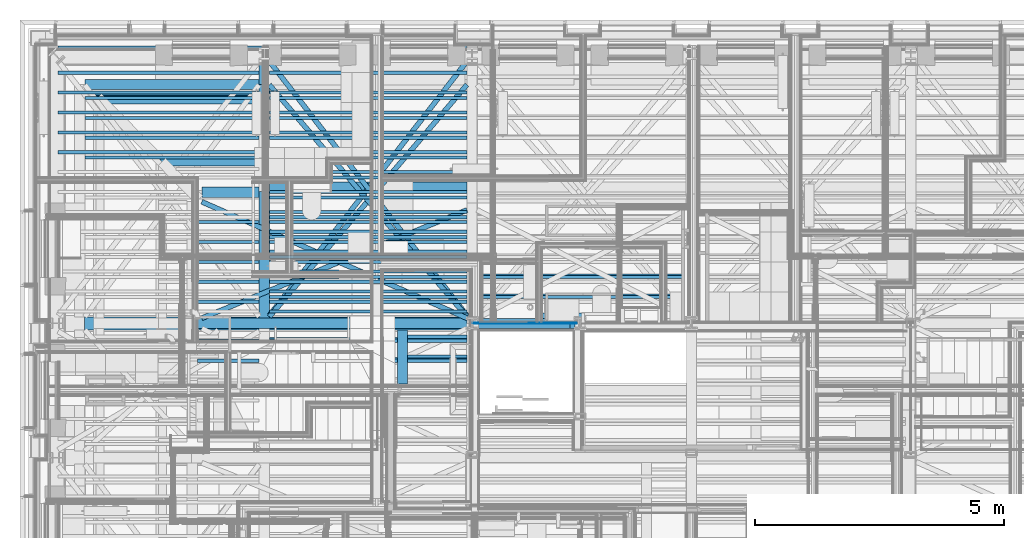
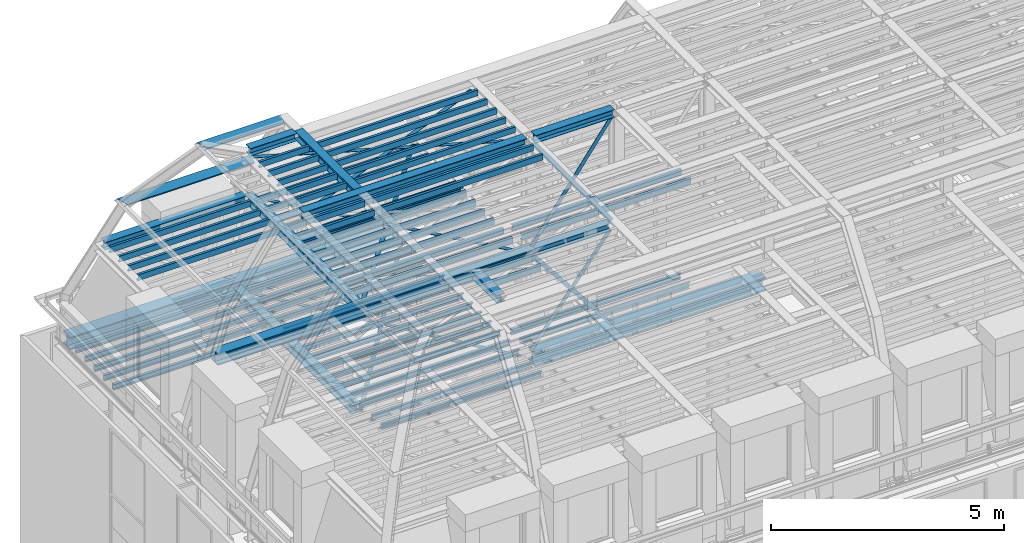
# One storey, part 7 of 183: 80 beams.
"""IFC2X3 building model written with IfcOpenShell, lengths in metres."""

from ifc_helpers import new_model, entity, si_unit, converted_unit, derived_unit, money_unit, direction, frame, frame_2d, origin_with_axes, place, context, subcontext, project, spatial, polyline, rectangle, outline, extrude, clip, halfspace, material, type_object, element, save


model = new_model("IFC2X3")

# Units and contexts
model_context = context("Model", 3, precision=1e-05, world=origin_with_axes(), true_north=direction((0.0, 1.0)))
body_context = subcontext(model_context, "Body", "Model", "MODEL_VIEW", scale=1.0)
ifc_project = project(units=[si_unit("LENGTHUNIT", "METRE"), si_unit("AREAUNIT", "SQUARE_METRE"), si_unit("VOLUMEUNIT", "CUBIC_METRE"), si_unit("ABSORBEDDOSEUNIT", "GRAY"), si_unit("AMOUNTOFSUBSTANCEUNIT", "MOLE"), si_unit("DOSEEQUIVALENTUNIT", "SIEVERT"), si_unit("ELECTRICCAPACITANCEUNIT", "FARAD"), si_unit("ELECTRICCHARGEUNIT", "COULOMB"), si_unit("ELECTRICCONDUCTANCEUNIT", "SIEMENS"), si_unit("ELECTRICCURRENTUNIT", "AMPERE"), si_unit("ELECTRICRESISTANCEUNIT", "OHM"), si_unit("ELECTRICVOLTAGEUNIT", "VOLT"), si_unit("ENERGYUNIT", "JOULE"), si_unit("FORCEUNIT", "NEWTON"), si_unit("FREQUENCYUNIT", "HERTZ"), si_unit("ILLUMINANCEUNIT", "LUX"), si_unit("INDUCTANCEUNIT", "HENRY"), si_unit("LUMINOUSFLUXUNIT", "LUMEN"), si_unit("LUMINOUSINTENSITYUNIT", "CANDELA"), si_unit("MAGNETICFLUXDENSITYUNIT", "TESLA"), si_unit("MAGNETICFLUXUNIT", "WEBER"), si_unit("MASSUNIT", "GRAM"), converted_unit("PLANEANGLEUNIT", "degree", entity("IfcReal", 0.0174532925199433), si_unit("PLANEANGLEUNIT", "RADIAN"), dimensions=[0, 0, 0, 0, 0, 0, 0]), si_unit("POWERUNIT", "WATT"), si_unit("PRESSUREUNIT", "PASCAL"), si_unit("RADIOACTIVITYUNIT", "BECQUEREL"), si_unit("SOLIDANGLEUNIT", "STERADIAN"), si_unit("THERMODYNAMICTEMPERATUREUNIT", "KELVIN"), si_unit("TIMEUNIT", "SECOND"), derived_unit("ACCELERATIONUNIT", [(si_unit("LENGTHUNIT", "METRE"), 1), (si_unit("TIMEUNIT", "SECOND"), -2)]), derived_unit("ANGULARVELOCITYUNIT", [(converted_unit("PLANEANGLEUNIT", "degree", entity("IfcReal", 0.0174532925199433), si_unit("PLANEANGLEUNIT", "RADIAN"), dimensions=[0, 0, 0, 0, 0, 0, 0]), 1), (si_unit("TIMEUNIT", "SECOND"), -1)]), derived_unit("CURVATUREUNIT", [(converted_unit("PLANEANGLEUNIT", "degree", entity("IfcReal", 0.0174532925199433), si_unit("PLANEANGLEUNIT", "RADIAN"), dimensions=[0, 0, 0, 0, 0, 0, 0]), 1), (si_unit("LENGTHUNIT", "METRE"), -1)]), derived_unit("DYNAMICVISCOSITYUNIT", [(si_unit("PRESSUREUNIT", "PASCAL"), 1), (si_unit("TIMEUNIT", "SECOND"), 1)]), derived_unit("HEATFLUXDENSITYUNIT", [(si_unit("POWERUNIT", "WATT"), 1), (si_unit("LENGTHUNIT", "METRE"), -2)]), derived_unit("HEATINGVALUEUNIT", [(si_unit("ENERGYUNIT", "JOULE"), 1), (si_unit("MASSUNIT", "GRAM"), -1)]), derived_unit("INTEGERCOUNTRATEUNIT", [(si_unit("TIMEUNIT", "SECOND"), -1)]), derived_unit("IONCONCENTRATIONUNIT", [(si_unit("MASSUNIT", "GRAM"), 1), (si_unit("VOLUMEUNIT", "CUBIC_METRE"), -1)]), derived_unit("ISOTHERMALMOISTURECAPACITYUNIT", [(si_unit("VOLUMEUNIT", "CUBIC_METRE"), 1), (si_unit("MASSUNIT", "GRAM"), -1)]), derived_unit("KINEMATICVISCOSITYUNIT", [(si_unit("AREAUNIT", "SQUARE_METRE"), 1), (si_unit("TIMEUNIT", "SECOND"), -1)]), derived_unit("LINEARFORCEUNIT", [(si_unit("FORCEUNIT", "NEWTON"), 1), (si_unit("LENGTHUNIT", "METRE"), -1)]), derived_unit("LINEARMOMENTUNIT", [(si_unit("FORCEUNIT", "NEWTON"), 1), (si_unit("LENGTHUNIT", "METRE"), -1)]), derived_unit("LINEARSTIFFNESSUNIT", [(si_unit("FORCEUNIT", "NEWTON"), 1), (si_unit("LENGTHUNIT", "METRE"), -1)]), derived_unit("LINEARVELOCITYUNIT", [(si_unit("LENGTHUNIT", "METRE"), 1), (si_unit("TIMEUNIT", "SECOND"), -1)]), derived_unit("LUMINOUSINTENSITYDISTRIBUTIONUNIT", [(si_unit("LUMINOUSINTENSITYUNIT", "CANDELA"), 1), (si_unit("LUMINOUSFLUXUNIT", "LUMEN"), -1)]), derived_unit("MASSDENSITYUNIT", [(si_unit("MASSUNIT", "GRAM"), 1), (si_unit("VOLUMEUNIT", "CUBIC_METRE"), -1)]), derived_unit("MASSFLOWRATEUNIT", [(si_unit("MASSUNIT", "GRAM"), 1), (si_unit("TIMEUNIT", "SECOND"), -1)]), derived_unit("MASSPERLENGTHUNIT", [(si_unit("MASSUNIT", "GRAM"), 1), (si_unit("LENGTHUNIT", "METRE"), -1)]), derived_unit("MODULUSOFELASTICITYUNIT", [(si_unit("FORCEUNIT", "NEWTON"), 1), (si_unit("AREAUNIT", "SQUARE_METRE"), -1)]), derived_unit("MODULUSOFLINEARSUBGRADEREACTIONUNIT", [(si_unit("FORCEUNIT", "NEWTON"), 1), (si_unit("LENGTHUNIT", "METRE"), -2)]), derived_unit("MODULUSOFROTATIONALSUBGRADEREACTIONUNIT", [(si_unit("FORCEUNIT", "NEWTON"), 1), (si_unit("LENGTHUNIT", "METRE"), 1)]), derived_unit("MODULUSOFSUBGRADEREACTIONUNIT", [(si_unit("FORCEUNIT", "NEWTON"), 1), (si_unit("VOLUMEUNIT", "CUBIC_METRE"), -1)]), derived_unit("MOISTUREDIFFUSIVITYUNIT", [(si_unit("VOLUMEUNIT", "CUBIC_METRE"), 1), (si_unit("TIMEUNIT", "SECOND"), -1)]), derived_unit("MOLECULARWEIGHTUNIT", [(si_unit("MASSUNIT", "GRAM"), 1), (si_unit("AMOUNTOFSUBSTANCEUNIT", "MOLE"), -1)]), derived_unit("PLANARFORCEUNIT", [(si_unit("FORCEUNIT", "NEWTON"), 1), (si_unit("LENGTHUNIT", "METRE"), -2)]), derived_unit("ROTATIONALFREQUENCYUNIT", [(si_unit("TIMEUNIT", "SECOND"), -1)]), derived_unit("ROTATIONALMASSUNIT", [(si_unit("MASSUNIT", "GRAM"), 1), (si_unit("LENGTHUNIT", "METRE"), 2)]), derived_unit("ROTATIONALSTIFFNESSUNIT", [(si_unit("FORCEUNIT", "NEWTON"), 1), (si_unit("LENGTHUNIT", "METRE"), 1), (converted_unit("PLANEANGLEUNIT", "degree", entity("IfcReal", 0.0174532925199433), si_unit("PLANEANGLEUNIT", "RADIAN"), dimensions=[0, 0, 0, 0, 0, 0, 0]), -1)]), derived_unit("SECTIONAREAINTEGRALUNIT", [(si_unit("LENGTHUNIT", "METRE"), 5)]), derived_unit("SECTIONMODULUSUNIT", [(si_unit("LENGTHUNIT", "METRE"), 3)]), derived_unit("SHEARMODULUSUNIT", [(si_unit("FORCEUNIT", "NEWTON"), 1), (si_unit("AREAUNIT", "SQUARE_METRE"), -1)]), derived_unit("SOUNDPOWERUNIT", [(si_unit("ENERGYUNIT", "JOULE"), 1), (si_unit("TIMEUNIT", "SECOND"), -1)]), derived_unit("SPECIFICHEATCAPACITYUNIT", [(si_unit("FORCEUNIT", "NEWTON"), 1), (si_unit("MASSUNIT", "GRAM"), -1), (si_unit("THERMODYNAMICTEMPERATUREUNIT", "KELVIN"), -1)]), derived_unit("TEMPERATUREGRADIENTUNIT", [(si_unit("THERMODYNAMICTEMPERATUREUNIT", "KELVIN"), 1), (si_unit("LENGTHUNIT", "METRE"), -1)]), derived_unit("THERMALADMITTANCEUNIT", [(si_unit("POWERUNIT", "WATT"), 1), (si_unit("AREAUNIT", "SQUARE_METRE"), -1), (si_unit("THERMODYNAMICTEMPERATUREUNIT", "KELVIN"), -1)]), derived_unit("THERMALCONDUCTANCEUNIT", [(si_unit("POWERUNIT", "WATT"), 1), (si_unit("LENGTHUNIT", "METRE"), -1), (si_unit("THERMODYNAMICTEMPERATUREUNIT", "KELVIN"), -1)]), derived_unit("THERMALEXPANSIONCOEFFICIENTUNIT", [(si_unit("THERMODYNAMICTEMPERATUREUNIT", "KELVIN"), -1)]), derived_unit("THERMALRESISTANCEUNIT", [(si_unit("AREAUNIT", "SQUARE_METRE"), 1), (si_unit("POWERUNIT", "WATT"), -1)]), derived_unit("THERMALTRANSMITTANCEUNIT", [(si_unit("POWERUNIT", "WATT"), 1), (si_unit("AREAUNIT", "SQUARE_METRE"), -1), (si_unit("THERMODYNAMICTEMPERATUREUNIT", "KELVIN"), -1)]), derived_unit("TORQUEUNIT", [(si_unit("FORCEUNIT", "NEWTON"), 1), (si_unit("LENGTHUNIT", "METRE"), 1)]), derived_unit("VAPORPERMEABILITYUNIT", [(si_unit("MASSUNIT", "GRAM"), 1), (si_unit("TIMEUNIT", "SECOND"), -1)]), derived_unit("VOLUMETRICFLOWRATEUNIT", [(si_unit("VOLUMEUNIT", "CUBIC_METRE"), 1), (si_unit("TIMEUNIT", "SECOND"), -1)]), derived_unit("WARPINGCONSTANTUNIT", [(si_unit("LENGTHUNIT", "METRE"), 6)]), derived_unit("WARPINGMOMENTUNIT", [(si_unit("FORCEUNIT", "NEWTON"), 1), (si_unit("LENGTHUNIT", "METRE"), 2)]), money_unit("GBP")], contexts=[model_context])

# Site, building, storey
site_placement = place(None, origin_with_axes())
site = spatial("IfcSite", under=ifc_project, at=site_placement, Name="Site", CompositionType="ELEMENT")
building_placement = place(site_placement, origin_with_axes())
building = spatial("IfcBuilding", under=site, at=building_placement, Name="Building01", CompositionType="ELEMENT")
storey_placement = place(building_placement, frame((0.0, 0.0, 5.15), z_axis=(0.0, 0.0, 1.0), x_axis=(1.0, 0.0, 0.0)))
storey = spatial("IfcBuildingStorey", under=building, at=storey_placement, Name="1F", CompositionType="ELEMENT", Elevation=5.15)

# Beams
ifc_material = material(Name="A_BSUK_Beams_Steel")
beam_type_1 = type_object("IfcBeamType", Name="A-Beams-Steel", PredefinedType="BEAM")
beam_1_placement = place(storey_placement, frame((0.7691, 14.0688, 9.5078), z_axis=(1.0, 0.0, 0.0), x_axis=(0.0, 1.0, 0.0)))
element("IfcBeam", 1, at=beam_1_placement, inside=storey, type_object=beam_type_1, material=ifc_material, Name="4F", ObjectType="A-Beams-Steel", context=body_context, shape_type="SweptSolid", body=[
    extrude(outline(polyline([(0.3112, 0.0), (0.3112, 0.025), (0.1635, 0.025), (0.1635, 0.3021), (0.3112, 0.3021), (0.3112, 0.3271), (0.0, 0.3271), (0.0, 0.3021), (0.1477, 0.3021), (0.1477, 0.025), (0.0, 0.025), (0.0, 0.0), (0.3112, 0.0)])), origin_with_axes(), (0.0, 0.0, 1.0), 8.21635),
])
beam_2_placement = place(storey_placement, frame((9.19455, 8.6908, 9.3775), z_axis=(1.0, 0.0, 0.0), x_axis=(0.0, 1.0, 0.0)))
element("IfcBeam", 2, at=beam_2_placement, inside=storey, type_object=beam_type_1, material=ifc_material, Name="4F", ObjectType="A-Beams-Steel", context=body_context, shape_type="SweptSolid", body=[
    extrude(outline(polyline([(0.3184, 0.0), (0.3184, 0.0377), (0.1707, 0.0377), (0.1707, 0.3148), (0.3184, 0.3148), (0.3184, 0.3525), (0.0, 0.3525), (0.0, 0.3148), (0.1477, 0.3148), (0.1477, 0.0377), (0.0, 0.0377), (0.0, 0.0), (0.3184, 0.0)])), origin_with_axes(), (0.0, 0.0, 1.0), 5.70725),
])
beam_3_placement = place(storey_placement, frame((4.80545, 14.0688, 9.5078), z_axis=(0.0, -1.0, 0.0), x_axis=(1.0, 0.0, 0.0)))
element("IfcBeam", 3, at=beam_3_placement, inside=storey, type_object=beam_type_1, material=ifc_material, Name="4F", ObjectType="A-Beams-Steel", context=body_context, shape_type="SweptSolid", body=[
    extrude(outline(polyline([(0.2091, 0.0), (0.2091, 0.0205), (0.1109, 0.0205), (0.1109, 0.2017), (0.2091, 0.2017), (0.2091, 0.2222), (0.0, 0.2222), (0.0, 0.2017), (0.0982, 0.2017), (0.0982, 0.0205), (0.0, 0.0205), (0.0, 0.0), (0.2091, 0.0)])), origin_with_axes(), (0.0, 0.0, 1.0), 5.1096),
])
beam_4_placement = place(storey_placement, frame((1.3032, 13.4982, 12.2768), z_axis=(1.0, 0.0, 0.0), x_axis=(0.0, 1.0, 0.0)))
element("IfcBeam", 4, at=beam_4_placement, inside=storey, type_object=beam_type_1, material=ifc_material, Name="5F", ObjectType="A-Beams-Steel", context=body_context, shape_type="SweptSolid", body=[
    extrude(outline(polyline([(0.2036, 0.0), (0.2036, 0.011), (0.1054, 0.011), (0.1054, 0.1922), (0.2036, 0.1922), (0.2036, 0.2032), (0.0, 0.2032), (0.0, 0.1922), (0.0982, 0.1922), (0.0982, 0.011), (0.0, 0.011), (0.0, 0.0), (0.2036, 0.0)])), origin_with_axes(), (0.0, 0.0, 1.0), 3.5036),
])
beam_5_placement = place(storey_placement, frame((4.8068, 13.5982, 12.2642), z_axis=(0.0, -1.0, 0.0), x_axis=(1.0, 0.0, 0.0)))
element("IfcBeam", 5, at=beam_5_placement, inside=storey, type_object=beam_type_1, material=ifc_material, Name="5F", ObjectType="A-Beams-Steel", context=body_context, shape_type="SweptSolid", body=[
    extrude(outline(polyline([(0.2064, 0.0), (0.2064, 0.0173), (0.1082, 0.0173), (0.1082, 0.1985), (0.2064, 0.1985), (0.2064, 0.2158), (0.0, 0.2158), (0.0, 0.1985), (0.0982, 0.1985), (0.0982, 0.0173), (0.0, 0.0173), (0.0, 0.0), (0.2064, 0.0)])), origin_with_axes(), (0.0, 0.0, 1.0), 4.665573),
])
beam_6_placement = place(storey_placement, frame((7.5882, 8.667427, 12.2768), z_axis=(0.0, -1.0, 0.0), x_axis=(1.0, 0.0, 0.0)))
element("IfcBeam", 6, at=beam_6_placement, inside=storey, type_object=beam_type_1, material=ifc_material, Name="5F", ObjectType="A-Beams-Steel", context=body_context, shape_type="SweptSolid", body=[
    extrude(outline(polyline([(0.2036, 0.0), (0.2036, 0.011), (0.1054, 0.011), (0.1054, 0.1922), (0.2036, 0.1922), (0.2036, 0.2032), (0.0, 0.2032), (0.0, 0.1922), (0.0982, 0.1922), (0.0982, 0.011), (0.0, 0.011), (0.0, 0.0), (0.2036, 0.0)])), origin_with_axes(), (0.0, 0.0, 1.0), 1.084827),
])
beam_7_placement = place(storey_placement, frame((9.1918, 8.698199, 12.2768), z_axis=(1.0, 0.0, 0.0), x_axis=(0.0, 1.0, 0.0)))
element("IfcBeam", 7, at=beam_7_placement, inside=storey, type_object=beam_type_1, material=ifc_material, Name="5F", ObjectType="A-Beams-Steel", context=body_context, shape_type="SweptSolid", body=[
    extrude(outline(polyline([(0.2036, 0.0), (0.2036, 0.011), (0.1054, 0.011), (0.1054, 0.1922), (0.2036, 0.1922), (0.2036, 0.2032), (0.0, 0.2032), (0.0, 0.1922), (0.0982, 0.1922), (0.0982, 0.011), (0.0, 0.011), (0.0, 0.0), (0.2036, 0.0)])), origin_with_axes(), (0.0, 0.0, 1.0), 1.86305),
])
beam_8_placement = place(storey_placement, frame((5.0132, 11.4382, 12.2768), z_axis=(1.0, 0.0, 0.0), x_axis=(0.0, 1.0, 0.0)))
element("IfcBeam", 8, at=beam_8_placement, inside=storey, type_object=beam_type_1, material=ifc_material, Name="5F", ObjectType="A-Beams-Steel", context=body_context, shape_type="SweptSolid", body=[
    extrude(outline(polyline([(0.2036, 0.0), (0.2036, 0.011), (0.1054, 0.011), (0.1054, 0.1922), (0.2036, 0.1922), (0.2036, 0.2032), (0.0, 0.2032), (0.0, 0.1922), (0.0982, 0.1922), (0.0982, 0.011), (0.0, 0.011), (0.0, 0.0), (0.2036, 0.0)])), origin_with_axes(), (0.0, 0.0, 1.0), 3.9736),
])
beam_9_placement = place(storey_placement, frame((1.3018, 8.667427, 12.1909), z_axis=(1.0, 0.0, 0.0), x_axis=(0.0, 1.0, 0.0)))
element("IfcBeam", 9, at=beam_9_placement, inside=storey, type_object=beam_type_1, material=ifc_material, Name="5F", ObjectType="A-Beams-Steel", context=body_context, shape_type="SweptSolid", body=[
    extrude(outline(polyline([(0.2652, 0.0), (0.2652, 0.0317), (0.1422, 0.0317), (0.1422, 0.2574), (0.2652, 0.2574), (0.2652, 0.2891), (0.0, 0.2891), (0.0, 0.2574), (0.123, 0.2574), (0.123, 0.0317), (0.0, 0.0317), (0.0, 0.0), (0.2652, 0.0)])), origin_with_axes(), (0.0, 0.0, 1.0), 7.88305),
])
beam_10_placement = place(storey_placement, frame((4.808222, 11.4492, 15.2268), z_axis=(0.0, -1.0, 0.0), x_axis=(1.0, 0.0, 0.0)))
element("IfcBeam", 10, at=beam_10_placement, inside=storey, type_object=beam_type_1, material=ifc_material, Name="RP", ObjectType="A-Beams-Steel", context=body_context, shape_type="SweptSolid", body=[
    extrude(outline(polyline([(0.2036, 0.0), (0.2036, 0.011), (0.1054, 0.011), (0.1054, 0.1922), (0.2036, 0.1922), (0.2036, 0.2032), (0.0, 0.2032), (0.0, 0.1922), (0.0982, 0.1922), (0.0982, 0.011), (0.0, 0.011), (0.0, 0.0), (0.2036, 0.0)])), origin_with_axes(), (0.0, 0.0, 1.0), 2.546),
])
beam_11_placement = place(storey_placement, frame((3.6548, 11.3356, 15.2268), z_axis=(1.0, 0.0, 0.0), x_axis=(0.0, 1.0, 0.0)))
element("IfcBeam", 11, at=beam_11_placement, inside=storey, type_object=beam_type_1, material=ifc_material, Name="RP", ObjectType="A-Beams-Steel", context=body_context, shape_type="SweptSolid", body=[
    extrude(outline(polyline([(0.2036, 0.0), (0.2036, 0.011), (0.1054, 0.011), (0.1054, 0.1922), (0.2036, 0.1922), (0.2036, 0.2032), (0.0, 0.2032), (0.0, 0.1922), (0.0982, 0.1922), (0.0982, 0.011), (0.0, 0.011), (0.0, 0.0), (0.2036, 0.0)])), origin_with_axes(), (0.0, 0.0, 1.0), 1.153422),
])
beam_12_placement = place(storey_placement, frame((9.19515, 8.6982, 15.2268), z_axis=(1.0, 0.0, 0.0), x_axis=(0.0, 1.0, 0.0)))
element("IfcBeam", 12, at=beam_12_placement, inside=storey, type_object=beam_type_1, material=ifc_material, Name="RP", ObjectType="A-Beams-Steel", context=body_context, shape_type="SweptSolid", body=[
    extrude(outline(polyline([(0.2036, 0.0), (0.2036, 0.011), (0.1054, 0.011), (0.1054, 0.1922), (0.2036, 0.1922), (0.2036, 0.2032), (0.0, 0.2032), (0.0, 0.1922), (0.0982, 0.1922), (0.0982, 0.011), (0.0, 0.011), (0.0, 0.0), (0.2036, 0.0)])), origin_with_axes(), (0.0, 0.0, 1.0), 1.9597),
])
beam_13_placement = place(storey_placement, frame((3.4512, 8.6968, 15.2142), z_axis=(1.0, 0.0, 0.0), x_axis=(0.0, 1.0, 0.0)))
element("IfcBeam", 13, at=beam_13_placement, inside=storey, type_object=beam_type_1, material=ifc_material, Name="RP", ObjectType="A-Beams-Steel", context=body_context, shape_type="SweptSolid", body=[
    extrude(outline(polyline([(0.2064, 0.0), (0.2064, 0.0173), (0.1082, 0.0173), (0.1082, 0.1985), (0.2064, 0.1985), (0.2064, 0.2158), (0.0, 0.2158), (0.0, 0.1985), (0.0982, 0.1985), (0.0982, 0.0173), (0.0, 0.0173), (0.0, 0.0), (0.2064, 0.0)])), origin_with_axes(), (0.0, 0.0, 1.0), 5.53365),
])
beam_14_placement = place(storey_placement, frame((3.634694, 11.199821, 15.268), z_axis=(0.91558669, -0.40212065, 0.0), x_axis=(0.40212065, 0.91558669, 0.0)))
element("IfcBeam", 14, at=beam_14_placement, inside=storey, type_object=beam_type_1, material=ifc_material, Name="RP", ObjectType="A-Beams-Steel", context=body_context, shape_type="SweptSolid", body=[
    extrude(rectangle(XDim=0.01, YDim=0.1, at=frame_2d((0.05, 0.005), x_axis=(0.0, 1.0))), origin_with_axes(), (0.0, 0.0, 1.0), 5.825117),
])
for number, where, z_axis, x_axis, name in (
    (15, (8.94597, 14.099481, 9.558), (-0.61362924, -0.78959429, 0.0), (0.78959429, -0.61362924, 0.0), "4F"),
    (16, (4.97507, 14.038119, 9.568), (0.61362924, -0.78959429, 0.0), (0.78959429, 0.61362924, 0.0), "4F"),
):
    element("IfcBeam", number, at=place(storey_placement, frame(where, z_axis=z_axis, x_axis=x_axis)), inside=storey, type_object=beam_type_1, material=ifc_material, Name=name, ObjectType="A-Beams-Steel", context=body_context, shape_type="SweptSolid", body=[
        extrude(rectangle(XDim=0.01, YDim=0.1, at=frame_2d((0.05, 0.005), x_axis=(0.0, 1.0))), origin_with_axes(), (0.0, 0.0, 1.0), 6.471171),
    ])
for number, where, z_axis, x_axis, name in (
    (17, (8.948735, 13.63062, 12.308), (-0.64839295, -0.76130584, 0.0), (0.76130584, -0.64839295, 0.0), "5F"),
    (18, (4.975135, 13.56578, 12.318), (0.64839295, -0.76130584, 0.0), (0.76130584, 0.64839295, 0.0), "5F"),
):
    element("IfcBeam", number, at=place(storey_placement, frame(where, z_axis=z_axis, x_axis=x_axis)), inside=storey, type_object=beam_type_1, material=ifc_material, Name=name, ObjectType="A-Beams-Steel", context=body_context, shape_type="SweptSolid", body=[
        extrude(rectangle(XDim=0.01, YDim=0.1, at=frame_2d((0.05, 0.005), x_axis=(0.0, 1.0))), origin_with_axes(), (0.0, 0.0, 1.0), 6.128383),
    ])
beam_15_placement = place(storey_placement, frame((3.6737, 8.85691, 15.258), z_axis=(0.925805, 0.37800146, 0.0), x_axis=(-0.37800146, 0.925805, 0.0)))
element("IfcBeam", 19, at=beam_15_placement, inside=storey, type_object=beam_type_1, material=ifc_material, Name="RP", ObjectType="A-Beams-Steel", context=body_context, shape_type="SweptSolid", body=[
    extrude(rectangle(XDim=0.01, YDim=0.1, at=frame_2d((0.05, 0.005), x_axis=(0.0, 1.0))), origin_with_axes(), (0.0, 0.0, 1.0), 5.760824),
])
beam_16_placement = place(storey_placement, frame((9.093944, 8.799999, 9.78031), z_axis=(0.62070174, 0.0, 0.78404678), x_axis=(0.78404678, 0.0, -0.62070174)))
element("IfcBeam", 20, at=beam_16_placement, inside=storey, type_object=beam_type_1, material=ifc_material, Name="4F", ObjectType="A-Beams-Steel", context=body_context, shape_type="SweptSolid", body=[
    extrude(rectangle(XDim=0.01, YDim=0.1, at=frame_2d((0.05, 0.005), x_axis=(0.0, 1.0))), origin_with_axes(), (0.0, 0.0, 1.0), 3.182251),
])
beam_17_placement = place(storey_placement, frame((11.119426, 8.789999, 9.718229), z_axis=(-0.62073512, 0.0, 0.78402035), x_axis=(0.78402035, 0.0, 0.62073512)))
element("IfcBeam", 21, at=beam_17_placement, inside=storey, type_object=beam_type_1, material=ifc_material, Name="4F", ObjectType="A-Beams-Steel", context=body_context, shape_type="SweptSolid", body=[
    extrude(rectangle(XDim=0.01, YDim=0.1, at=frame_2d((0.05, 0.005), x_axis=(0.0, 1.0))), origin_with_axes(), (0.0, 0.0, 1.0), 3.182417),
])
beam_18_placement = place(storey_placement, frame((9.117145, 8.799999, 12.509561), z_axis=(0.59099365, 0.0, 0.80667621), x_axis=(0.80667621, 0.0, -0.59099365)))
element("IfcBeam", 22, at=beam_18_placement, inside=storey, type_object=beam_type_1, material=ifc_material, Name="5F", ObjectType="A-Beams-Steel", context=body_context, shape_type="SweptSolid", body=[
    extrude(rectangle(XDim=0.01, YDim=0.1, at=frame_2d((0.05, 0.005), x_axis=(0.0, 1.0))), origin_with_axes(), (0.0, 0.0, 1.0), 3.369229),
])
beam_19_placement = place(storey_placement, frame((11.093552, 8.789999, 12.451015), z_axis=(-0.57969535, 0.0, 0.81483329), x_axis=(0.81483329, 0.0, 0.57969535)))
element("IfcBeam", 23, at=beam_19_placement, inside=storey, type_object=beam_type_1, material=ifc_material, Name="5F", ObjectType="A-Beams-Steel", context=body_context, shape_type="SweptSolid", body=[
    extrude(rectangle(XDim=0.01, YDim=0.1, at=frame_2d((0.05, 0.005), x_axis=(0.0, 1.0))), origin_with_axes(), (0.0, 0.0, 1.0), 3.336257),
])
beam_20_placement = place(storey_placement, frame((1.482474, 13.215773, 13.514975), z_axis=(1.0, 0.0, 0.0), x_axis=(0.0, 0.57351196, -0.81919718)))
element("IfcBeam", 24, at=beam_20_placement, inside=storey, type_object=beam_type_1, material=ifc_material, Name="5F", ObjectType="A-Beams-Steel", context=body_context, shape_type="Clipping", body=[
    clip(clip(extrude(outline(polyline([(0.075, 0.0), (0.075, 0.012), (0.006, 0.012), (0.006, 0.188), (0.075, 0.188), (0.075, 0.2), (0.0, 0.2), (0.0, 0.0), (0.075, 0.0)])), origin_with_axes(), (0.0, 0.0, 1.0), 3.354332), halfspace(frame((0.059316, 0.084727, 0.103426), z_axis=(0.4055342, 0.57925988, 0.70710678), x_axis=(0.86746356, 0.0, -0.49750073)), True)), halfspace(frame((-6.827144, -9.751805, 11.9041), z_axis=(0.4055342, 0.57925988, -0.70710678), x_axis=(-0.86746356, 0.0, -0.49750073)), True)),
])
beam_21_placement = place(storey_placement, frame((2.738382, 11.959866, 15.308898), z_axis=(1.0, 0.0, 0.0), x_axis=(0.0, 0.57351196, -0.81919718)))
element("IfcBeam", 25, at=beam_21_placement, inside=storey, type_object=beam_type_1, material=ifc_material, Name="RP", ObjectType="A-Beams-Steel", context=body_context, shape_type="Clipping", body=[
    clip(clip(extrude(outline(polyline([(0.075, 0.0), (0.075, 0.012), (0.006, 0.012), (0.006, 0.188), (0.075, 0.188), (0.075, 0.2), (0.0, 0.2), (0.0, 0.0), (0.075, 0.0)])), origin_with_axes(), (0.0, 0.0, 1.0), 2.119791), halfspace(frame((0.059316, 0.084727, 0.103426), z_axis=(0.4055342, 0.57925988, 0.70710678), x_axis=(0.86746356, 0.0, -0.49750073)), True)), halfspace(frame((-6.106866, -8.722969, 10.648192), z_axis=(0.4055342, 0.57925988, -0.70710678), x_axis=(-0.86746356, 0.0, -0.49750073)), True)),
])
beam_type_2 = type_object("IfcBeamType", Name="SHE_A-Beams-Steel-Purlin_150m15", PredefinedType="BEAM")
for number, where, z_axis, x_axis, name in (
    (26, (13.39545, 9.3912, 9.578), (-1.0, 0.0, 0.0), (0.0, -1.0, 0.0), "4F"),
    (27, (13.39545, 9.7912, 9.578), (-1.0, 0.0, 0.0), (0.0, -1.0, 0.0), "4F"),
):
    element("IfcBeam", number, at=place(storey_placement, frame(where, z_axis=z_axis, x_axis=x_axis)), inside=storey, type_object=beam_type_2, material=ifc_material, Name=name, ObjectType="SHE_A-Beams-Steel-Purlin_150m15", context=body_context, shape_type="SweptSolid", body=[
        extrude(outline(polyline([(0.064, 0.0), (0.064, 0.0155), (0.0625, 0.0155), (0.0625, 0.0015), (0.0015, 0.0015), (0.0015, 0.1505), (0.0625, 0.1505), (0.0625, 0.1365), (0.064, 0.1365), (0.064, 0.152), (0.0, 0.152), (0.0, 0.0), (0.064, 0.0)])), origin_with_axes(), (0.0, 0.0, 1.0), 4.2009),
    ])
for number, where, z_axis, x_axis, name in (
    (28, (8.98545, 9.0728, 9.578), (-1.0, 0.0, 0.0), (0.0, -1.0, 0.0), "4F"),
    (29, (8.98545, 9.4728, 9.578), (-1.0, 0.0, 0.0), (0.0, -1.0, 0.0), "4F"),
    (30, (8.98545, 9.8728, 9.578), (-1.0, 0.0, 0.0), (0.0, -1.0, 0.0), "4F"),
    (31, (8.98545, 10.2728, 9.578), (-1.0, 0.0, 0.0), (0.0, -1.0, 0.0), "4F"),
    (32, (8.98545, 10.6728, 9.578), (-1.0, 0.0, 0.0), (0.0, -1.0, 0.0), "4F"),
    (33, (8.98545, 11.0728, 9.578), (-1.0, 0.0, 0.0), (0.0, -1.0, 0.0), "4F"),
    (34, (8.98545, 11.4728, 9.578), (-1.0, 0.0, 0.0), (0.0, -1.0, 0.0), "4F"),
    (35, (8.98545, 11.8728, 9.578), (-1.0, 0.0, 0.0), (0.0, -1.0, 0.0), "4F"),
    (36, (8.98545, 12.2728, 9.578), (-1.0, 0.0, 0.0), (0.0, -1.0, 0.0), "4F"),
    (37, (8.98545, 12.6728, 9.578), (-1.0, 0.0, 0.0), (0.0, -1.0, 0.0), "4F"),
    (38, (8.98545, 13.4728, 9.578), (-1.0, 0.0, 0.0), (0.0, -1.0, 0.0), "4F"),
    (39, (8.98545, 13.8728, 9.578), (-1.0, 0.0, 0.0), (0.0, -1.0, 0.0), "4F"),
):
    element("IfcBeam", number, at=place(storey_placement, frame(where, z_axis=z_axis, x_axis=x_axis)), inside=storey, type_object=beam_type_2, material=ifc_material, Name=name, ObjectType="SHE_A-Beams-Steel-Purlin_150m15", context=body_context, shape_type="SweptSolid", body=[
        extrude(outline(polyline([(0.064, 0.0), (0.064, 0.0155), (0.0625, 0.0155), (0.0625, 0.0015), (0.0015, 0.0015), (0.0015, 0.1505), (0.0625, 0.1505), (0.0625, 0.1365), (0.064, 0.1365), (0.064, 0.152), (0.0, 0.152), (0.0, 0.0), (0.064, 0.0)])), origin_with_axes(), (0.0, 0.0, 1.0), 3.9709),
    ])
for number, where, z_axis, x_axis, name in (
    (40, (1.3032, 12.100627, 12.328), (1.0, 0.0, 0.0), (0.0, 1.0, 0.0), "5F"),
    (41, (1.3032, 12.500627, 12.328), (1.0, 0.0, 0.0), (0.0, 1.0, 0.0), "5F"),
    (42, (1.3032, 12.900627, 12.328), (1.0, 0.0, 0.0), (0.0, 1.0, 0.0), "5F"),
    (43, (1.3032, 13.300627, 12.328), (1.0, 0.0, 0.0), (0.0, 1.0, 0.0), "5F"),
):
    element("IfcBeam", number, at=place(storey_placement, frame(where, z_axis=z_axis, x_axis=x_axis)), inside=storey, type_object=beam_type_2, material=ifc_material, Name=name, ObjectType="SHE_A-Beams-Steel-Purlin_150m15", context=body_context, shape_type="SweptSolid", body=[
        extrude(outline(polyline([(0.064, 0.0), (0.064, 0.0155), (0.0625, 0.0155), (0.0625, 0.0015), (0.0015, 0.0015), (0.0015, 0.1505), (0.0625, 0.1505), (0.0625, 0.1365), (0.064, 0.1365), (0.064, 0.152), (0.0, 0.152), (0.0, 0.0), (0.064, 0.0)])), origin_with_axes(), (0.0, 0.0, 1.0), 3.5036),
    ])
for number, where, z_axis, x_axis, name in (
    (44, (4.80545, 12.2728, 9.578), (-1.0, 0.0, 0.0), (0.0, -1.0, 0.0), "4F"),
    (45, (4.80545, 12.6728, 9.578), (-1.0, 0.0, 0.0), (0.0, -1.0, 0.0), "4F"),
    (46, (4.80545, 13.0728, 9.578), (-1.0, 0.0, 0.0), (0.0, -1.0, 0.0), "4F"),
    (47, (4.80545, 13.4728, 9.578), (-1.0, 0.0, 0.0), (0.0, -1.0, 0.0), "4F"),
    (48, (4.80545, 13.8728, 9.578), (-1.0, 0.0, 0.0), (0.0, -1.0, 0.0), "4F"),
):
    element("IfcBeam", number, at=place(storey_placement, frame(where, z_axis=z_axis, x_axis=x_axis)), inside=storey, type_object=beam_type_2, material=ifc_material, Name=name, ObjectType="SHE_A-Beams-Steel-Purlin_150m15", context=body_context, shape_type="SweptSolid", body=[
        extrude(outline(polyline([(0.064, 0.0), (0.064, 0.0155), (0.0625, 0.0155), (0.0625, 0.0015), (0.0015, 0.0015), (0.0015, 0.1505), (0.0625, 0.1505), (0.0625, 0.1365), (0.064, 0.1365), (0.064, 0.152), (0.0, 0.152), (0.0, 0.0), (0.064, 0.0)])), origin_with_axes(), (0.0, 0.0, 1.0), 4.03635),
    ])
for number, where, z_axis, x_axis, name in (
    (49, (3.5648, 8.018, 15.278), (1.0, 0.0, 0.0), (0.0, 1.0, 0.0), "RP"),
    (50, (3.5648, 8.418, 15.278), (1.0, 0.0, 0.0), (0.0, 1.0, 0.0), "RP"),
    (51, (3.5648, 9.2032, 15.278), (1.0, 0.0, 0.0), (0.0, 1.0, 0.0), "RP"),
    (52, (3.5648, 9.6032, 15.278), (1.0, 0.0, 0.0), (0.0, 1.0, 0.0), "RP"),
    (53, (3.5648, 10.0032, 15.278), (1.0, 0.0, 0.0), (0.0, 1.0, 0.0), "RP"),
    (54, (3.5648, 10.4032, 15.278), (1.0, 0.0, 0.0), (0.0, 1.0, 0.0), "RP"),
    (55, (3.5648, 10.8032, 15.278), (1.0, 0.0, 0.0), (0.0, 1.0, 0.0), "RP"),
):
    element("IfcBeam", number, at=place(storey_placement, frame(where, z_axis=z_axis, x_axis=x_axis)), inside=storey, type_object=beam_type_2, material=ifc_material, Name=name, ObjectType="SHE_A-Beams-Steel-Purlin_150m15", context=body_context, shape_type="SweptSolid", body=[
        extrude(outline(polyline([(0.064, 0.0), (0.064, 0.0155), (0.0625, 0.0155), (0.0625, 0.0015), (0.0015, 0.0015), (0.0015, 0.1505), (0.0625, 0.1505), (0.0625, 0.1365), (0.064, 0.1365), (0.064, 0.152), (0.0, 0.152), (0.0, 0.0), (0.064, 0.0)])), origin_with_axes(), (0.0, 0.0, 1.0), 1.243422),
    ])
for number, where, z_axis, x_axis, name in (
    (56, (8.98545, 8.111952, 9.578), (-1.0, 0.0, 0.0), (0.0, -1.0, 0.0), "4F"),
    (57, (8.98545, 8.511936, 9.578), (-1.0, 0.0, 0.0), (0.0, -1.0, 0.0), "4F"),
):
    element("IfcBeam", number, at=place(storey_placement, frame(where, z_axis=z_axis, x_axis=x_axis)), inside=storey, type_object=beam_type_2, material=ifc_material, Name=name, ObjectType="SHE_A-Beams-Steel-Purlin_150m15", context=body_context, shape_type="SweptSolid", body=[
        extrude(outline(polyline([(0.064, 0.0), (0.064, 0.0155), (0.0625, 0.0155), (0.0625, 0.0015), (0.0015, 0.0015), (0.0015, 0.1505), (0.0625, 0.1505), (0.0625, 0.1365), (0.064, 0.1365), (0.064, 0.152), (0.0, 0.152), (0.0, 0.0), (0.064, 0.0)])), origin_with_axes(), (0.0, 0.0, 1.0), 3.97365),
    ])
beam_22_placement = place(storey_placement, frame((8.98545, 13.0728, 9.578), z_axis=(-1.0, 0.0, 0.0), x_axis=(0.0, -1.0, 0.0)))
element("IfcBeam", 58, at=beam_22_placement, inside=storey, type_object=beam_type_2, material=ifc_material, Name="4F", ObjectType="SHE_A-Beams-Steel-Purlin_150m15", context=body_context, shape_type="SweptSolid", body=[
    extrude(outline(polyline([(0.064, 0.0), (0.064, 0.0155), (0.0625, 0.0155), (0.0625, 0.0015), (0.0015, 0.0015), (0.0015, 0.1505), (0.0625, 0.1505), (0.0625, 0.1365), (0.064, 0.1365), (0.064, 0.152), (0.0, 0.152), (0.0, 0.0), (0.064, 0.0)])), origin_with_axes(), (0.0, 0.0, 1.0), 3.9709),
])
for number, where, z_axis, x_axis, name in (
    (59, (5.0146, 9.300627, 12.328), (1.0, 0.0, 0.0), (0.0, 1.0, 0.0), "5F"),
    (60, (5.0146, 9.700627, 12.328), (1.0, 0.0, 0.0), (0.0, 1.0, 0.0), "5F"),
    (61, (5.0146, 10.100627, 12.328), (1.0, 0.0, 0.0), (0.0, 1.0, 0.0), "5F"),
    (62, (5.0146, 10.500627, 12.328), (1.0, 0.0, 0.0), (0.0, 1.0, 0.0), "5F"),
    (63, (5.0146, 10.900627, 12.328), (1.0, 0.0, 0.0), (0.0, 1.0, 0.0), "5F"),
    (64, (5.0146, 11.300627, 12.328), (1.0, 0.0, 0.0), (0.0, 1.0, 0.0), "5F"),
    (65, (5.0146, 11.700627, 12.328), (1.0, 0.0, 0.0), (0.0, 1.0, 0.0), "5F"),
    (66, (5.0146, 12.100627, 12.328), (1.0, 0.0, 0.0), (0.0, 1.0, 0.0), "5F"),
    (67, (5.0146, 12.500627, 12.328), (1.0, 0.0, 0.0), (0.0, 1.0, 0.0), "5F"),
    (68, (5.0146, 12.900627, 12.328), (1.0, 0.0, 0.0), (0.0, 1.0, 0.0), "5F"),
    (69, (5.0146, 13.300627, 12.328), (1.0, 0.0, 0.0), (0.0, 1.0, 0.0), "5F"),
):
    element("IfcBeam", number, at=place(storey_placement, frame(where, z_axis=z_axis, x_axis=x_axis)), inside=storey, type_object=beam_type_2, material=ifc_material, Name=name, ObjectType="SHE_A-Beams-Steel-Purlin_150m15", context=body_context, shape_type="SweptSolid", body=[
        extrude(outline(polyline([(0.064, 0.0), (0.064, 0.0155), (0.0625, 0.0155), (0.0625, 0.0015), (0.0015, 0.0015), (0.0015, 0.1505), (0.0625, 0.1505), (0.0625, 0.1365), (0.064, 0.1365), (0.064, 0.152), (0.0, 0.152), (0.0, 0.0), (0.064, 0.0)])), origin_with_axes(), (0.0, 0.0, 1.0), 3.9722),
    ])
for number, where, z_axis, x_axis, name in (
    (70, (9.1932, 9.700627, 12.328), (1.0, 0.0, 0.0), (0.0, 1.0, 0.0), "5F"),
    (71, (9.1932, 9.300627, 12.328), (1.0, 0.0, 0.0), (0.0, 1.0, 0.0), "5F"),
):
    element("IfcBeam", number, at=place(storey_placement, frame(where, z_axis=z_axis, x_axis=x_axis)), inside=storey, type_object=beam_type_2, material=ifc_material, Name=name, ObjectType="SHE_A-Beams-Steel-Purlin_150m15", context=body_context, shape_type="SweptSolid", body=[
        extrude(outline(polyline([(0.064, 0.0), (0.064, 0.0155), (0.0625, 0.0155), (0.0625, 0.0015), (0.0015, 0.0015), (0.0015, 0.1505), (0.0625, 0.1505), (0.0625, 0.1365), (0.064, 0.1365), (0.064, 0.152), (0.0, 0.152), (0.0, 0.0), (0.064, 0.0)])), origin_with_axes(), (0.0, 0.0, 1.0), 4.2036),
    ])
for number, where, z_axis, x_axis, name in (
    (72, (7.7918, 8.100627, 12.328), (1.0, 0.0, 0.0), (0.0, 0.0, 1.0), "5F"),
    (73, (7.7918, 8.500627, 12.328), (1.0, 0.0, 0.0), (0.0, 0.0, 1.0), "5F"),
):
    element("IfcBeam", number, at=place(storey_placement, frame(where, z_axis=z_axis, x_axis=x_axis)), inside=storey, type_object=beam_type_2, material=ifc_material, Name=name, ObjectType="SHE_A-Beams-Steel-Purlin_150m15", context=body_context, shape_type="SweptSolid", body=[
        extrude(outline(polyline([(0.152, 0.0), (0.152, -0.064), (0.1365, -0.064), (0.1365, -0.0625), (0.1505, -0.0625), (0.1505, -0.0015), (0.0015, -0.0015), (0.0015, -0.0625), (0.0155, -0.0625), (0.0155, -0.064), (0.0, -0.064), (0.0, 0.0), (0.152, 0.0)])), origin_with_axes(), (0.0, 0.0, 1.0), 1.1964),
    ])
for number, where, z_axis, x_axis, name in (
    (74, (5.011822, 8.018, 15.278), (1.0, 0.0, 0.0), (0.0, 1.0, 0.0), "RP"),
    (75, (5.011822, 8.418, 15.278), (1.0, 0.0, 0.0), (0.0, 1.0, 0.0), "RP"),
    (76, (5.011822, 9.2032, 15.278), (1.0, 0.0, 0.0), (0.0, 1.0, 0.0), "RP"),
    (77, (5.011822, 9.6032, 15.278), (1.0, 0.0, 0.0), (0.0, 1.0, 0.0), "RP"),
    (78, (5.011822, 10.0032, 15.278), (1.0, 0.0, 0.0), (0.0, 1.0, 0.0), "RP"),
    (79, (5.011822, 10.4032, 15.278), (1.0, 0.0, 0.0), (0.0, 1.0, 0.0), "RP"),
    (80, (5.011822, 10.8032, 15.278), (1.0, 0.0, 0.0), (0.0, 1.0, 0.0), "RP"),
):
    element("IfcBeam", number, at=place(storey_placement, frame(where, z_axis=z_axis, x_axis=x_axis)), inside=storey, type_object=beam_type_2, material=ifc_material, Name=name, ObjectType="SHE_A-Beams-Steel-Purlin_150m15", context=body_context, shape_type="SweptSolid", body=[
        extrude(outline(polyline([(0.064, 0.0), (0.064, 0.0155), (0.0625, 0.0155), (0.0625, 0.0015), (0.0015, 0.0015), (0.0015, 0.1505), (0.0625, 0.1505), (0.0625, 0.1365), (0.064, 0.1365), (0.064, 0.152), (0.0, 0.152), (0.0, 0.0), (0.064, 0.0)])), origin_with_axes(), (0.0, 0.0, 1.0), 3.976378),
    ])

save(model, "model.ifc")
